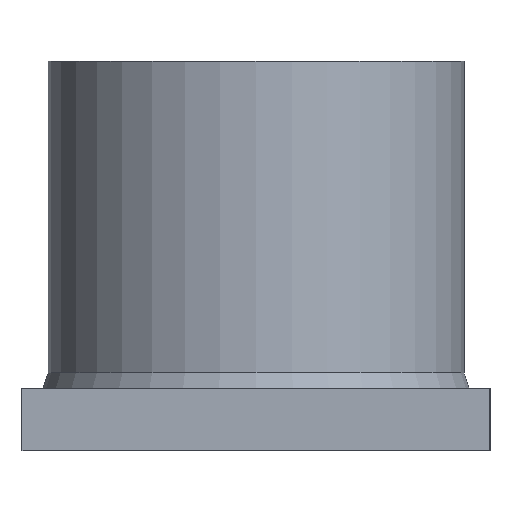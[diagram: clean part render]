
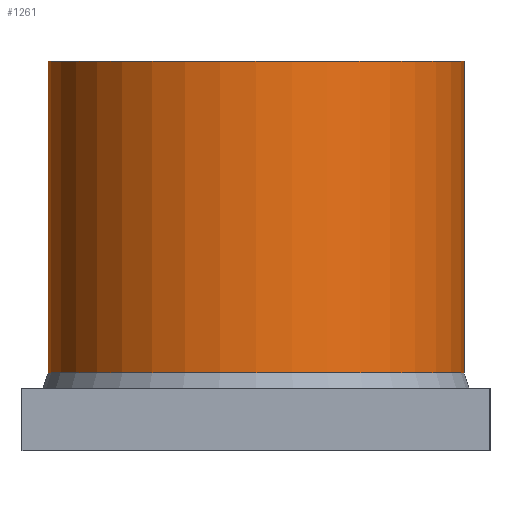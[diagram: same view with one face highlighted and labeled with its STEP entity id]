
A CAD part, left-side view. The second image highlights one B-rep face of the part: STEP entity #1261.
In plain terms, the highlighted cylindrical face has radius 8 mm (diameter 16 mm), a full revolution.
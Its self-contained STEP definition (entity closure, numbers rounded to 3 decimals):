
#597 = CONICAL_SURFACE('',#598,9.,0.322);
#598 = AXIS2_PLACEMENT_3D('',#599,#600,#601);
#599 = CARTESIAN_POINT('',(0.,34.,15.));
#600 = DIRECTION('',(0.,-1.,0.));
#601 = DIRECTION('',(1.,0.,-0.));
#859 = PLANE('',#860);
#860 = AXIS2_PLACEMENT_3D('',#861,#862,#863);
#861 = CARTESIAN_POINT('',(0.,49.,15.));
#862 = DIRECTION('',(0.,1.,0.));
#863 = DIRECTION('',(1.,0.,-0.));
#1103 = VERTEX_POINT('',#1104);
#1104 = CARTESIAN_POINT('',(8.,37.,15.));
#1125 = EDGE_CURVE('',#1103,#1103,#1126,.T.);
#1126 = SURFACE_CURVE('',#1127,(#1132,#1139),.PCURVE_S1.);
#1127 = CIRCLE('',#1128,8.);
#1128 = AXIS2_PLACEMENT_3D('',#1129,#1130,#1131);
#1129 = CARTESIAN_POINT('',(0.,37.,15.));
#1130 = DIRECTION('',(0.,1.,0.));
#1131 = DIRECTION('',(1.,0.,-0.));
#1132 = PCURVE('',#597,#1133);
#1133 = DEFINITIONAL_REPRESENTATION('',(#1134),#1138);
#1134 = LINE('',#1135,#1136);
#1135 = CARTESIAN_POINT('',(-0.,-3.));
#1136 = VECTOR('',#1137,1.);
#1137 = DIRECTION('',(-1.,-0.));
#1138 = ( GEOMETRIC_REPRESENTATION_CONTEXT(2) 
PARAMETRIC_REPRESENTATION_CONTEXT() REPRESENTATION_CONTEXT('2D SPACE',''
  ) );
#1139 = PCURVE('',#1140,#1145);
#1140 = CYLINDRICAL_SURFACE('',#1141,8.);
#1141 = AXIS2_PLACEMENT_3D('',#1142,#1143,#1144);
#1142 = CARTESIAN_POINT('',(0.,36.5,15.));
#1143 = DIRECTION('',(0.,1.,0.));
#1144 = DIRECTION('',(1.,0.,-0.));
#1145 = DEFINITIONAL_REPRESENTATION('',(#1146),#1150);
#1146 = LINE('',#1147,#1148);
#1147 = CARTESIAN_POINT('',(0.,0.5));
#1148 = VECTOR('',#1149,1.);
#1149 = DIRECTION('',(1.,0.));
#1150 = ( GEOMETRIC_REPRESENTATION_CONTEXT(2) 
PARAMETRIC_REPRESENTATION_CONTEXT() REPRESENTATION_CONTEXT('2D SPACE',''
  ) );
#1228 = EDGE_CURVE('',#1229,#1229,#1231,.T.);
#1229 = VERTEX_POINT('',#1230);
#1230 = CARTESIAN_POINT('',(8.,49.,15.));
#1231 = SURFACE_CURVE('',#1232,(#1237,#1244),.PCURVE_S1.);
#1232 = CIRCLE('',#1233,8.);
#1233 = AXIS2_PLACEMENT_3D('',#1234,#1235,#1236);
#1234 = CARTESIAN_POINT('',(0.,49.,15.));
#1235 = DIRECTION('',(0.,1.,0.));
#1236 = DIRECTION('',(1.,0.,-0.));
#1237 = PCURVE('',#859,#1238);
#1238 = DEFINITIONAL_REPRESENTATION('',(#1239),#1243);
#1239 = CIRCLE('',#1240,8.);
#1240 = AXIS2_PLACEMENT_2D('',#1241,#1242);
#1241 = CARTESIAN_POINT('',(0.,0.));
#1242 = DIRECTION('',(1.,0.));
#1243 = ( GEOMETRIC_REPRESENTATION_CONTEXT(2) 
PARAMETRIC_REPRESENTATION_CONTEXT() REPRESENTATION_CONTEXT('2D SPACE',''
  ) );
#1244 = PCURVE('',#1140,#1245);
#1245 = DEFINITIONAL_REPRESENTATION('',(#1246),#1250);
#1246 = LINE('',#1247,#1248);
#1247 = CARTESIAN_POINT('',(0.,12.5));
#1248 = VECTOR('',#1249,1.);
#1249 = DIRECTION('',(1.,0.));
#1250 = ( GEOMETRIC_REPRESENTATION_CONTEXT(2) 
PARAMETRIC_REPRESENTATION_CONTEXT() REPRESENTATION_CONTEXT('2D SPACE',''
  ) );
#1261 = ADVANCED_FACE('',(#1262),#1140,.T.);
#1262 = FACE_BOUND('',#1263,.T.);
#1263 = EDGE_LOOP('',(#1264,#1285,#1286,#1287));
#1264 = ORIENTED_EDGE('',*,*,#1265,.T.);
#1265 = EDGE_CURVE('',#1103,#1229,#1266,.T.);
#1266 = SEAM_CURVE('',#1267,(#1271,#1278),.PCURVE_S1.);
#1267 = LINE('',#1268,#1269);
#1268 = CARTESIAN_POINT('',(8.,36.5,15.));
#1269 = VECTOR('',#1270,1.);
#1270 = DIRECTION('',(0.,1.,0.));
#1271 = PCURVE('',#1140,#1272);
#1272 = DEFINITIONAL_REPRESENTATION('',(#1273),#1277);
#1273 = LINE('',#1274,#1275);
#1274 = CARTESIAN_POINT('',(6.283,-0.));
#1275 = VECTOR('',#1276,1.);
#1276 = DIRECTION('',(0.,1.));
#1277 = ( GEOMETRIC_REPRESENTATION_CONTEXT(2) 
PARAMETRIC_REPRESENTATION_CONTEXT() REPRESENTATION_CONTEXT('2D SPACE',''
  ) );
#1278 = PCURVE('',#1140,#1279);
#1279 = DEFINITIONAL_REPRESENTATION('',(#1280),#1284);
#1280 = LINE('',#1281,#1282);
#1281 = CARTESIAN_POINT('',(0.,-0.));
#1282 = VECTOR('',#1283,1.);
#1283 = DIRECTION('',(0.,1.));
#1284 = ( GEOMETRIC_REPRESENTATION_CONTEXT(2) 
PARAMETRIC_REPRESENTATION_CONTEXT() REPRESENTATION_CONTEXT('2D SPACE',''
  ) );
#1285 = ORIENTED_EDGE('',*,*,#1228,.F.);
#1286 = ORIENTED_EDGE('',*,*,#1265,.F.);
#1287 = ORIENTED_EDGE('',*,*,#1125,.T.);
